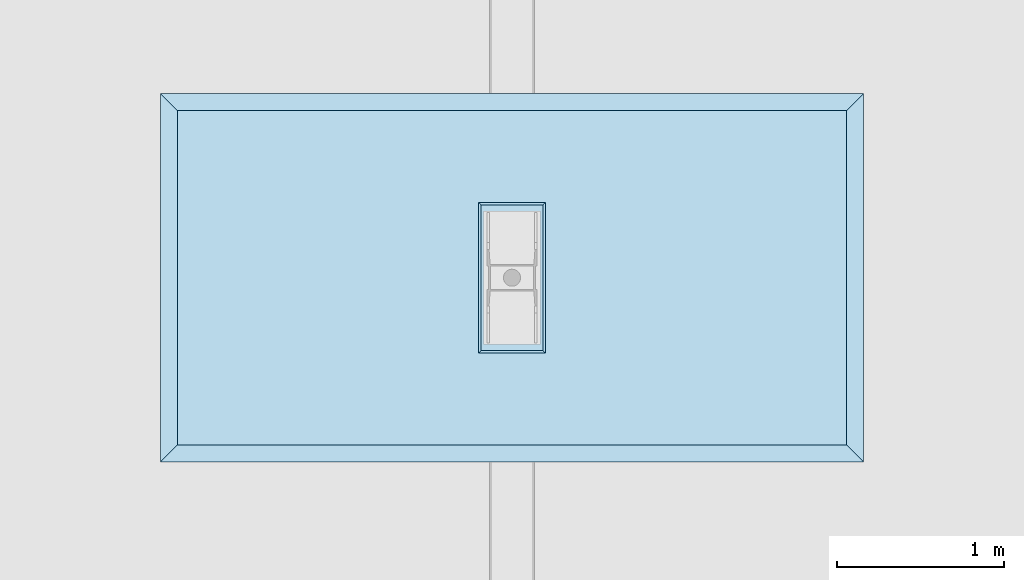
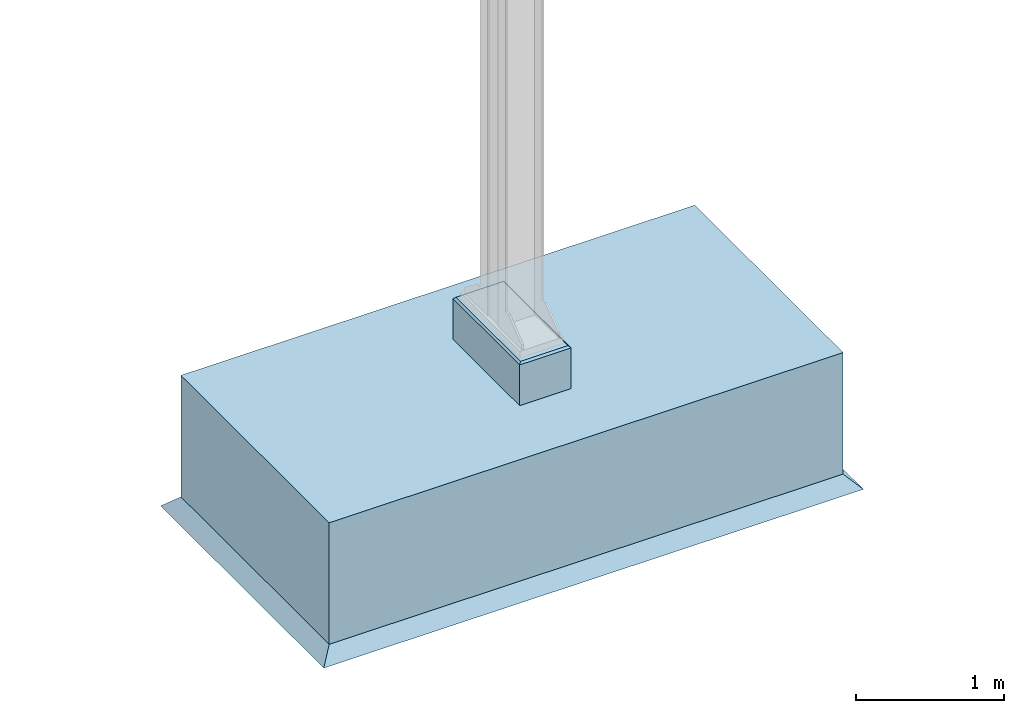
# One storey, incomplete: 1 slab.
"""IFC4 building model written with IfcOpenShell, lengths in metres."""

from ifc_helpers import new_model, entity, si_unit, converted_unit, direction, origin, place, context, subcontext, project, spatial, polygons, material, type_object, element, save


model = new_model("IFC4")

# Units and contexts
model_context = context("Model", 3, precision=1e-05, world=origin(), true_north=direction((6.123031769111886e-17, 1.0)))
body_context = subcontext(model_context, "Body", "Model", "MODEL_VIEW")
ifc_project = project(units=[si_unit("LENGTHUNIT", "METRE"), converted_unit("PLANEANGLEUNIT", "DEGREE", entity("IfcPlaneAngleMeasure", 0.017453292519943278), si_unit("PLANEANGLEUNIT", "RADIAN"), dimensions=[0, 0, 0, 0, 0, 0, 0])], contexts=[model_context])

# Site, building, storey
site_placement = place(None, origin())
site = spatial("IfcSite", under=ifc_project, at=site_placement, Name="Default", CompositionType="ELEMENT")
building_placement = place(site_placement, origin())
building = spatial("IfcBuilding", under=site, at=building_placement, CompositionType="ELEMENT")
storey_placement = place(building_placement, origin())
storey = spatial("IfcBuildingStorey", under=building, at=storey_placement, Name="DB_Bezugshoehe_max_Bahnsteigkante", CompositionType="ELEMENT", Elevation=0.0)

# Slab
ifc_material = material(Name="DB_Ortbeton", Category="DB_Beton")
slab_type = type_object("IfcSlabType", Name="DB_Systemdach_Fundament_Typ3:Variante1", PredefinedType="BASESLAB", material=ifc_material)
slab_placement = place(storey_placement, origin())
element("IfcSlab", 1, at=slab_placement, inside=storey, type_object=slab_type, Name="DB_Systemdach_Fundament_Typ3:Variante1", ObjectType="DB_Systemdach_Fundament_Typ3:Variante1", PredefinedType="BASESLAB", context=body_context, shape_type="Tessellation", body=[
    polygons([(1.9999999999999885, 1.000000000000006, -0.2500000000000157), (-2.0000000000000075, 1.000000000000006, -0.2500000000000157), (-2.000000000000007, -0.9999999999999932, -0.2500000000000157), (1.9999999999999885, -0.9999999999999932, -0.2500000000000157), (1.9999999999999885, 1.000000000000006, -1.2500000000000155), (1.9999999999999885, -0.9999999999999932, -1.2500000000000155), (-2.000000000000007, -0.9999999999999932, -1.2500000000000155), (-2.0000000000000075, 1.000000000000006, -1.2500000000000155)], [[[1, 2, 3, 4]], [[5, 6, 7, 8]], [[2, 1, 5, 8]], [[3, 2, 8, 7]], [[4, 3, 7, 6]], [[1, 4, 6, 5]]], closed=True),
    polygons([(1.9999999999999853, 1.000000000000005, -1.2500000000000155), (-2.0000000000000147, 1.000000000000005, -1.2500000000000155), (-2.000000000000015, -1.000000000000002, -1.2500000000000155), (1.9999999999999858, -1.0000000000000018, -1.2500000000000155), (2.0999999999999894, 1.100000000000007, -1.3500000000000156), (2.0999999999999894, -1.1000000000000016, -1.3500000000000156), (-2.100000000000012, -1.1000000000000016, -1.3500000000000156), (-2.100000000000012, 1.100000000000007, -1.3500000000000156)], [[[1, 2, 3, 4]], [[5, 6, 7, 8]], [[5, 8, 2, 1]], [[8, 7, 3, 2]], [[7, 6, 4, 3]], [[6, 5, 1, 4]]], closed=True),
    polygons([(0.19999999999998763, 0.44999999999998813, 0.08500000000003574), (-0.2000000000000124, 0.4499999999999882, 0.08500000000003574), (-0.2000000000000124, -0.4499999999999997, 0.08500000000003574), (0.19999999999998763, -0.44999999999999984, 0.08500000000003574), (0.19999999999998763, 0.44999999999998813, -0.2500000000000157), (0.19999999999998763, -0.44999999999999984, -0.2500000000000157), (-0.2000000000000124, -0.4499999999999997, -0.2500000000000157), (-0.2000000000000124, 0.4499999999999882, -0.2500000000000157)], [[[1, 2, 3, 4]], [[5, 6, 7, 8]], [[2, 1, 5, 8]], [[3, 2, 8, 7]], [[4, 3, 7, 6]], [[1, 4, 6, 5]]], closed=True),
    polygons([(-0.18500000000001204, 0.434999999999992, 0.09999999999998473), (-0.1850000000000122, -0.43499999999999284, 0.09999999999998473), (0.1849999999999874, -0.43499999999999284, 0.09999999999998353), (0.1849999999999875, 0.434999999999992, 0.09999999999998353), (-0.2000000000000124, 0.4499999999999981, 0.08500000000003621), (0.19999999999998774, 0.4499999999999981, 0.08500000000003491), (0.1999999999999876, -0.449999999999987, 0.08500000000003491), (-0.20000000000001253, -0.449999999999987, 0.08500000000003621)], [[[1, 2, 3, 4]], [[5, 6, 7, 8]], [[6, 5, 1, 4]], [[7, 6, 4, 3]], [[8, 7, 3, 2]], [[5, 8, 2, 1]]], closed=True),
])

save(model, "model.ifc")
